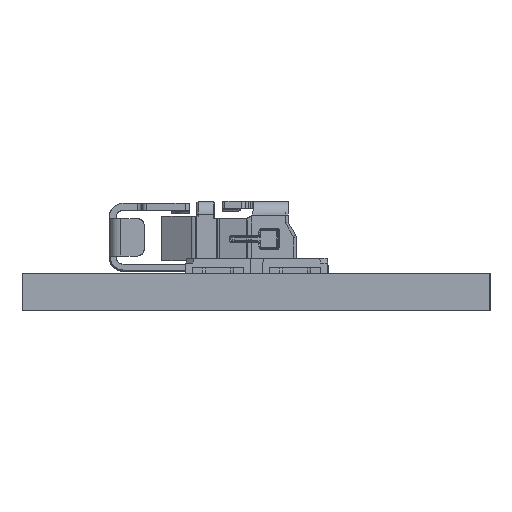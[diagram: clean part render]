
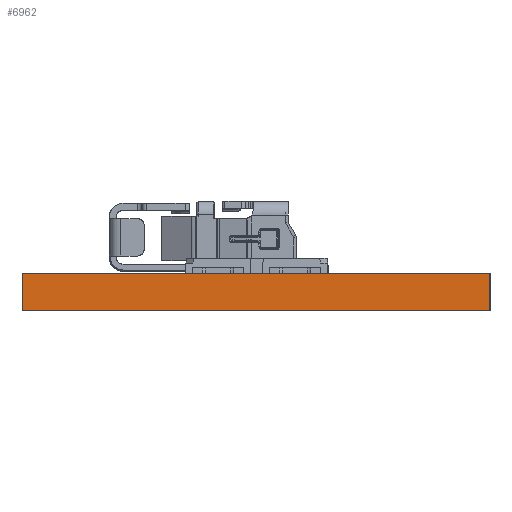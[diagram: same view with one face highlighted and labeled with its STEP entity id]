
A CAD part, left-side view. The second image highlights one B-rep face of the part: STEP entity #6962.
In plain terms, the highlighted planar face has unit normal (-1, 0, 0).
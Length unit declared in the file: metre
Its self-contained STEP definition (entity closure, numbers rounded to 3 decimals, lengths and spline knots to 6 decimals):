
#6962=ADVANCED_FACE('',(#12042),#12043,.T.);
#12042=FACE_OUTER_BOUND('',#18566,.T.);
#12043=PLANE('',#18567);
#18566=EDGE_LOOP('',(#29780,#29781,#29782,#29783));
#18567=AXIS2_PLACEMENT_3D('',#29784,#29785,#29786);
#29780=ORIENTED_EDGE('',*,*,#35167,.F.);
#29781=ORIENTED_EDGE('',*,*,#35175,.T.);
#29782=ORIENTED_EDGE('',*,*,#35191,.T.);
#29783=ORIENTED_EDGE('',*,*,#35181,.T.);
#29784=CARTESIAN_POINT('',(-0.009827,0.01261,-0.00237));
#29785=DIRECTION('',(-1.0,0.0,0.0));
#29786=DIRECTION('',(0.0,0.0,1.0));
#35167=EDGE_CURVE('',#44074,#44076,#44077,.T.);
#35175=EDGE_CURVE('',#44074,#44087,#44089,.T.);
#35181=EDGE_CURVE('',#44097,#44076,#44098,.T.);
#35191=EDGE_CURVE('',#44087,#44097,#44112,.T.);
#44074=VERTEX_POINT('',#61310);
#44076=VERTEX_POINT('',#61313);
#44077=LINE('',#61314,#61315);
#44087=VERTEX_POINT('',#61327);
#44089=LINE('',#61330,#61331);
#44097=VERTEX_POINT('',#61339);
#44098=LINE('',#61340,#61341);
#44112=LINE('',#61389,#61390);
#61310=CARTESIAN_POINT('',(-0.009827,0.01,-0.0016));
#61313=CARTESIAN_POINT('',(-0.009827,0.01,0.000002));
#61314=CARTESIAN_POINT('',(-0.009827,0.01,-0.000799));
#61315=VECTOR('',#63586,1.0);
#61327=CARTESIAN_POINT('',(-0.009827,-0.01,-0.0016));
#61330=CARTESIAN_POINT('',(-0.009827,0.0,-0.0016));
#61331=VECTOR('',#63599,1.0);
#61339=CARTESIAN_POINT('',(-0.009827,-0.01,0.000002));
#61340=CARTESIAN_POINT('',(-0.009827,0.0,0.000002));
#61341=VECTOR('',#63606,1.0);
#61389=CARTESIAN_POINT('',(-0.009827,-0.01,-0.000799));
#61390=VECTOR('',#63616,1.0);
#63586=DIRECTION('',(0.0,0.0,1.0));
#63599=DIRECTION('',(0.0,-1.0,0.0));
#63606=DIRECTION('',(0.0,1.0,0.0));
#63616=DIRECTION('',(0.0,0.0,1.0));
